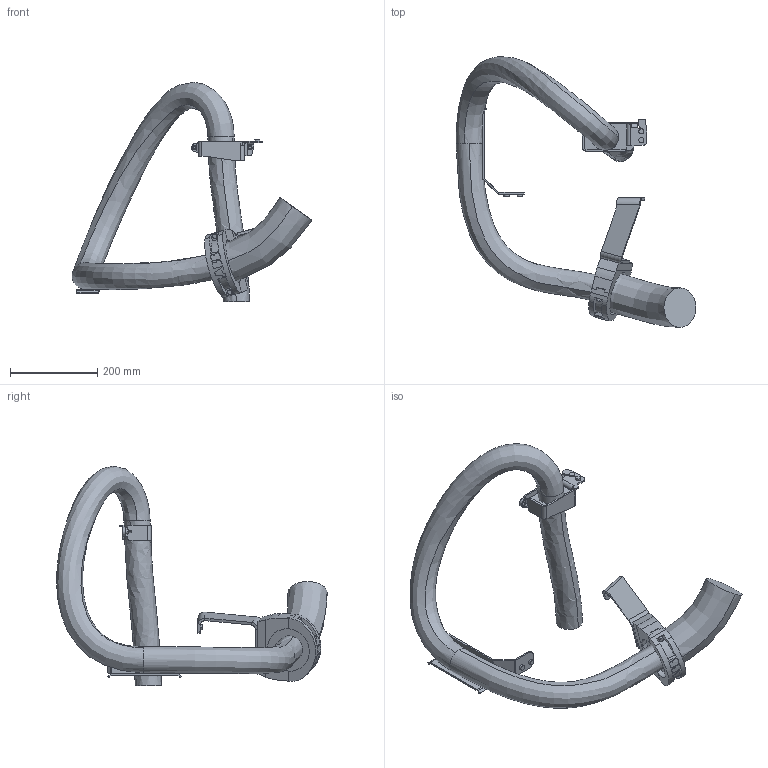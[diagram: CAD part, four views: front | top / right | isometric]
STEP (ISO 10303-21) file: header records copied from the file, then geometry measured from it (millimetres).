
FILE_DESCRIPTION (( 'STEP AP214' ), '1' );
FILE_NAME ('IRB5710-LID-SW_70kg-270_OC_00_LINK01_CABLE.step', '2025-07-07T14:19:19', ( '' ), ( '' ), 'SwSTEP 2.0', 'SolidWorks 2024', '' );
FILE_SCHEMA (( 'AUTOMOTIVE_DESIGN' ));
Length unit declared in the file: millimetre
Products named in the file (1): IRB5710-LID-SW_70kg-270_OC_00_LINK01_CABLE
Bounding box: 548.65 x 618.78 x 501.81 mm (x, y, z)
Volume: 6849498.3 mm3; surface area: 551626.9 mm2
Topology: 1 solids, 5 shells, 358 faces, 912 edges, 573 vertices
Faces by surface type: plane 206, cylinder 119, bspline 17, cone 12, sphere 4
Entity records: 15901 total; most frequent: CARTESIAN_POINT 7040, ORIENTED_EDGE 1824, DIRECTION 1795, EDGE_CURVE 912, AXIS2_PLACEMENT_3D 638, VERTEX_POINT 573, VECTOR 519, LINE 519
